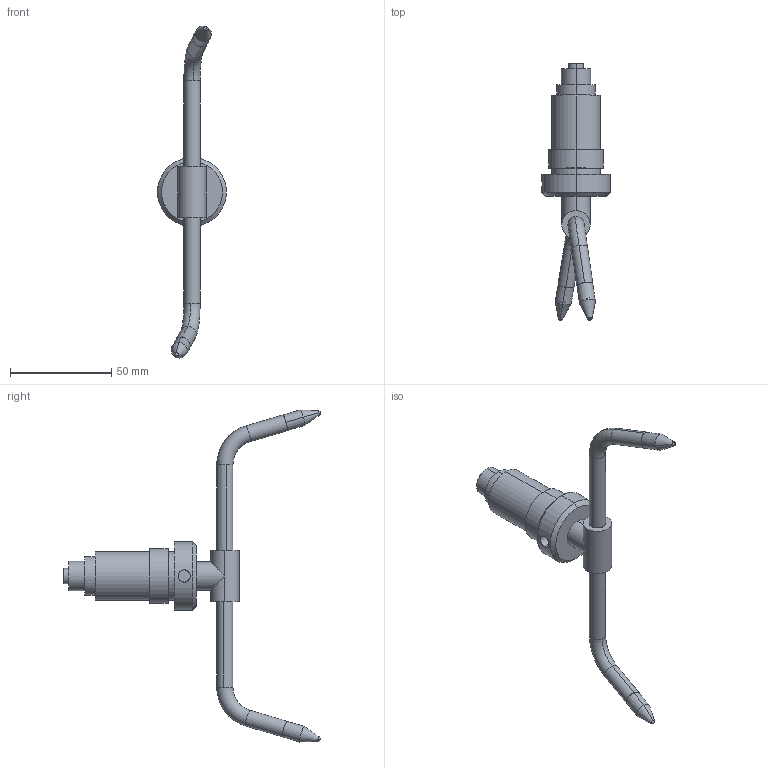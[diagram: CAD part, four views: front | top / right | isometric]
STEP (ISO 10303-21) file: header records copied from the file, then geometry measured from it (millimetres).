
FILE_DESCRIPTION (( 'STEP AP214' ), '1' );
FILE_NAME ('Silvent 952.STEP', '2013-01-18T13:53:39', ( 'silvpesv' ), ( '' ), 'SwSTEP 2.0', 'SolidWorks 2011', '' );
FILE_SCHEMA (( 'AUTOMOTIVE_DESIGN' ));
Length unit declared in the file: millimetre
Products named in the file (1): Silvent 952
Bounding box: 34 x 126.61 x 163.7 mm (x, y, z)
Volume: 39184.9 mm3; surface area: 18221.1 mm2
Topology: 5 solids, 5 shells, 86 faces, 184 edges, 118 vertices
Faces by surface type: cylinder 45, plane 19, cone 10, torus 8, sphere 4
Entity records: 3524 total; most frequent: CARTESIAN_POINT 525, DIRECTION 470, ORIENTED_EDGE 368, AXIS2_PLACEMENT_3D 207, EDGE_CURVE 184, CIRCLE 120, VERTEX_POINT 118, EDGE_LOOP 104
